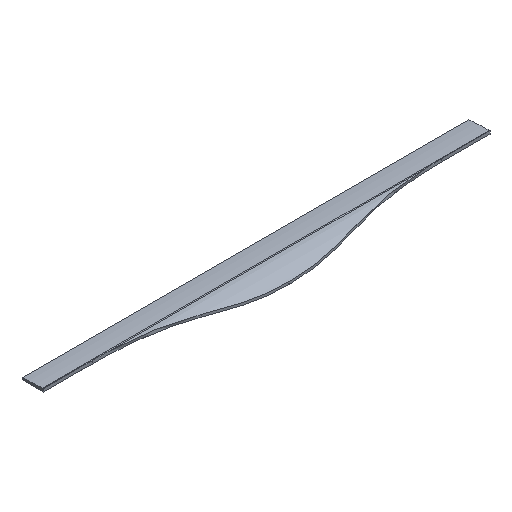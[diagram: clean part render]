
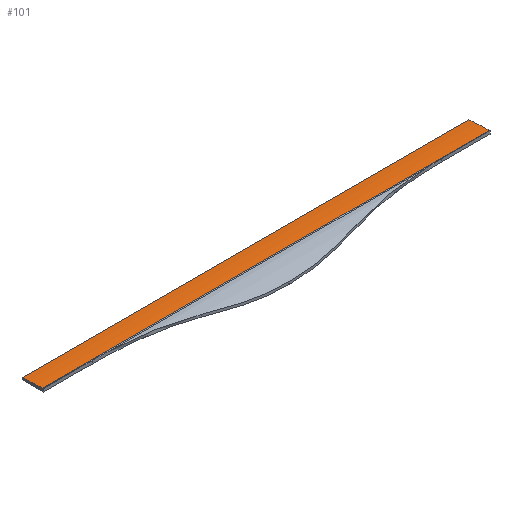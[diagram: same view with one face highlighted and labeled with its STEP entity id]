
A CAD part, isometric view. The second image highlights one B-rep face of the part: STEP entity #101.
In plain terms, the highlighted cylindrical face has radius 176.85 mm (diameter 353.7 mm), a partial arc.
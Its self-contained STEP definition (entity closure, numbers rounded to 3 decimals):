
#101 = ADVANCED_FACE( '', ( #208 ), #209, .T. );
#208 = FACE_OUTER_BOUND( '', #319, .T. );
#209 = CYLINDRICAL_SURFACE( '', #320, 176.85 );
#319 = EDGE_LOOP( '', ( #493, #494, #495, #496 ) );
#320 = AXIS2_PLACEMENT_3D( '', #497, #498, #499 );
#493 = ORIENTED_EDGE( '', *, *, #748, .T. );
#494 = ORIENTED_EDGE( '', *, *, #749, .F. );
#495 = ORIENTED_EDGE( '', *, *, #740, .F. );
#496 = ORIENTED_EDGE( '', *, *, #750, .T. );
#497 = CARTESIAN_POINT( '', ( 222.5, -11., -173.85 ) );
#498 = DIRECTION( '', ( 1., 0., 0. ) );
#499 = DIRECTION( '', ( 0., 0., 1. ) );
#740 = EDGE_CURVE( '', #895, #891, #897, .T. );
#748 = EDGE_CURVE( '', #907, #908, #909, .T. );
#749 = EDGE_CURVE( '', #891, #908, #910, .T. );
#750 = EDGE_CURVE( '', #895, #907, #911, .T. );
#891 = VERTEX_POINT( '', #1108 );
#895 = VERTEX_POINT( '', #1114 );
#897 = CIRCLE( '', #1117, 176.85 );
#907 = VERTEX_POINT( '', #1131 );
#908 = VERTEX_POINT( '', #1132 );
#909 = CIRCLE( '', #1133, 176.85 );
#910 = LINE( '', #1134, #1135 );
#911 = LINE( '', #1136, #1137 );
#1108 = CARTESIAN_POINT( '', ( 222.5, -11., 3. ) );
#1114 = CARTESIAN_POINT( '', ( 222.5, 9.5, 1.808 ) );
#1117 = AXIS2_PLACEMENT_3D( '', #1361, #1362, #1363 );
#1131 = CARTESIAN_POINT( '', ( -222.5, 9.5, 1.808 ) );
#1132 = CARTESIAN_POINT( '', ( -222.5, -11., 3. ) );
#1133 = AXIS2_PLACEMENT_3D( '', #1368, #1369, #1370 );
#1134 = CARTESIAN_POINT( '', ( 222.5, -11., 3. ) );
#1135 = VECTOR( '', #1371, 1000. );
#1136 = CARTESIAN_POINT( '', ( 222.5, 9.5, 1.808 ) );
#1137 = VECTOR( '', #1372, 1000. );
#1361 = CARTESIAN_POINT( '', ( 222.5, -11., -173.85 ) );
#1362 = DIRECTION( '', ( 1., 0., 0. ) );
#1363 = DIRECTION( '', ( 0., 0., -1. ) );
#1368 = CARTESIAN_POINT( '', ( -222.5, -11., -173.85 ) );
#1369 = DIRECTION( '', ( 1., 0., 0. ) );
#1370 = DIRECTION( '', ( 0., 0., -1. ) );
#1371 = DIRECTION( '', ( -1., 0., 0. ) );
#1372 = DIRECTION( '', ( -1., 0., 0. ) );
